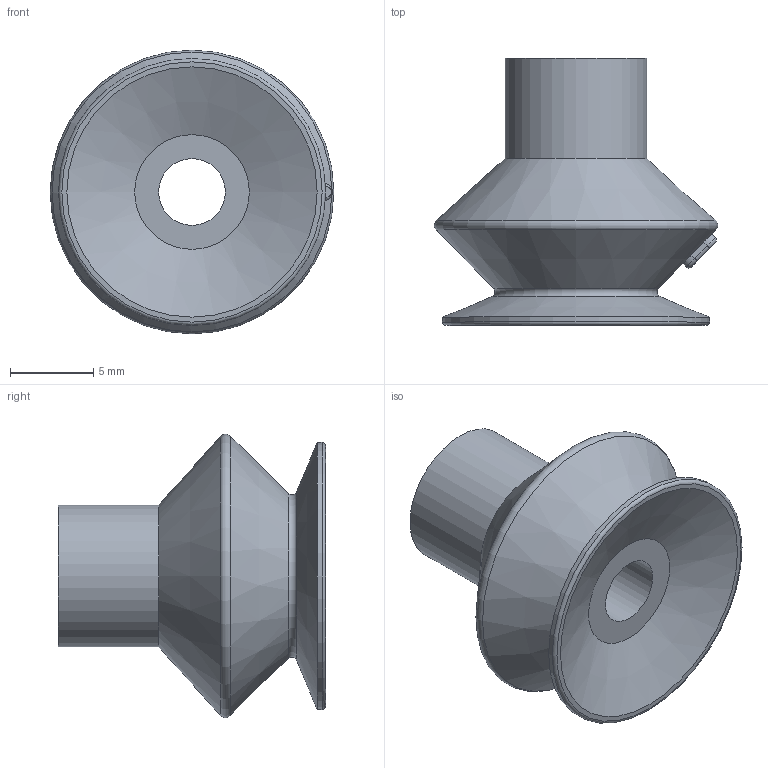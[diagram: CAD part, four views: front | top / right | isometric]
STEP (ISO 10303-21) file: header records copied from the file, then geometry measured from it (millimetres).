
FILE_DESCRIPTION(('STEP AP203'),'1');
FILE_NAME('_3D.stp','2025-02-13T06:38:44',(' '),(' '),'Spatial InterOp 3D',' ',' ');
FILE_SCHEMA(('CONFIG_CONTROL_DESIGN'));
Length unit declared in the file: millimetre
Products named in the file (3): BPBG-15A-※; BPBG-15A; 파트27
Assembly tree (2 placements, depth 2):
  BPBG-15A-※
    BPBG-15A
    파트27
Bounding box: 17 x 16 x 17 mm (x, y, z)
Volume: 1377.3 mm3; surface area: 1253.8 mm2
Topology: 2 solids, 2 shells, 34 faces, 76 edges, 49 vertices
Faces by surface type: cone 8, torus 8, bspline 8, cylinder 5, plane 5
Full cylindrical faces by diameter (mm): 4 x2, 6 x1, 8.5 x1, 16 x1
Entity records: 1961 total; most frequent: CARTESIAN_POINT 1244, DIRECTION 102, ORIENTED_EDGE 98, EDGE_LOOP 57, AXIS2_PLACEMENT_3D 51, EDGE_CURVE 49, FACE_OUTER_BOUND 47, VERTEX_POINT 40
